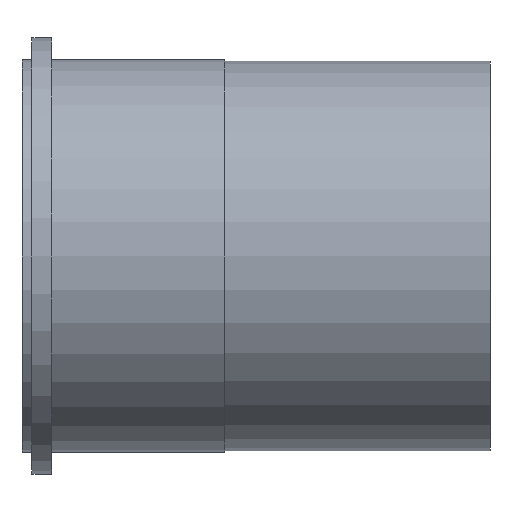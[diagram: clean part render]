
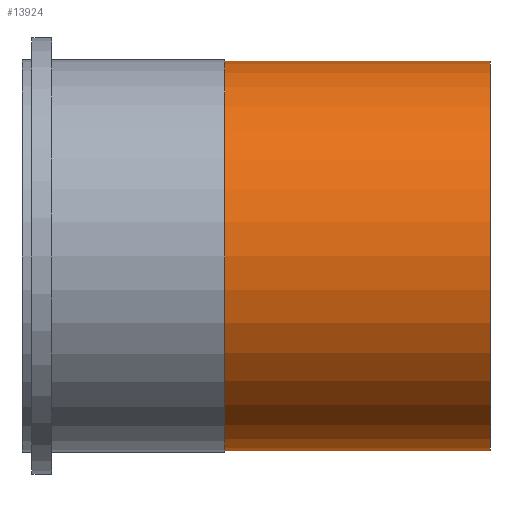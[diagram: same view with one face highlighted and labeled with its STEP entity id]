
A CAD part, front view. The second image highlights one B-rep face of the part: STEP entity #13924.
In plain terms, the highlighted cylindrical face has radius 62.484 mm (diameter 124.968 mm), a full revolution.
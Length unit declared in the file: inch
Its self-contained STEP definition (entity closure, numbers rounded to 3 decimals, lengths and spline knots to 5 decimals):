
#13893=CARTESIAN_POINT('',(2.56,2.46,0.0));
#13894=VERTEX_POINT('',#13893);
#13895=CARTESIAN_POINT('',(2.56,0.0,0.0));
#13896=DIRECTION('',(1.0,0.0,0.0));
#13897=DIRECTION('',(0.0,1.0,0.0));
#13898=AXIS2_PLACEMENT_3D('',#13895,#13896,#13897);
#13899=CIRCLE('',#13898,2.46);
#13900=EDGE_CURVE('',#13894,#13894,#13899,.T.);
#13905=CARTESIAN_POINT('',(4.23276,0.0,0.0));
#13906=DIRECTION('',(1.0,0.0,0.0));
#13907=DIRECTION('',(0.0,1.0,0.0));
#13908=AXIS2_PLACEMENT_3D('',#13905,#13906,#13907);
#13909=CYLINDRICAL_SURFACE('',#13908,2.46);
#13910=CARTESIAN_POINT('',(5.90551,2.46,0.0));
#13911=VERTEX_POINT('',#13910);
#13912=CARTESIAN_POINT('',(5.90551,0.0,0.0));
#13913=DIRECTION('',(1.0,0.0,0.0));
#13914=DIRECTION('',(0.0,1.0,0.0));
#13915=AXIS2_PLACEMENT_3D('',#13912,#13913,#13914);
#13916=CIRCLE('',#13915,2.46);
#13917=EDGE_CURVE('',#13911,#13911,#13916,.T.);
#13918=ORIENTED_EDGE('',*,*,#13917,.F.);
#13919=EDGE_LOOP('',(#13918));
#13920=FACE_OUTER_BOUND('',#13919,.T.);
#13921=ORIENTED_EDGE('',*,*,#13900,.T.);
#13922=EDGE_LOOP('',(#13921));
#13923=FACE_BOUND('',#13922,.T.);
#13924=ADVANCED_FACE('',(#13920,#13923),#13909,.T.);
